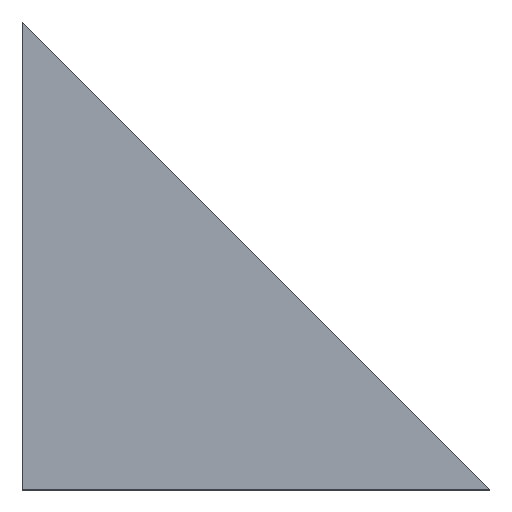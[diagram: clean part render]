
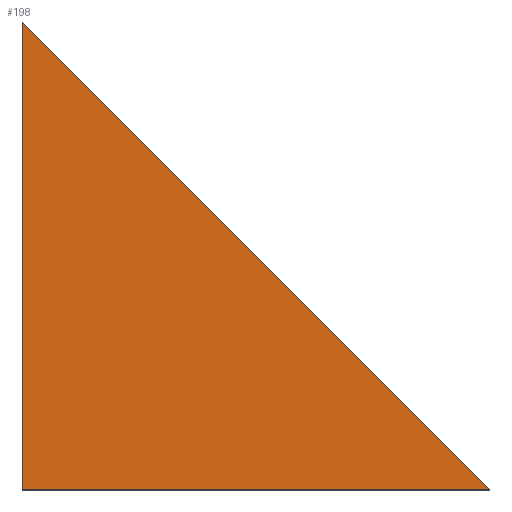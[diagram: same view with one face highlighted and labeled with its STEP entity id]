
A CAD part, top view. The second image highlights one B-rep face of the part: STEP entity #198.
In plain terms, the highlighted planar face has unit normal (0, 0, 1).
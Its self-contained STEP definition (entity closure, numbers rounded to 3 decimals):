
#3 = VECTOR ( 'NONE', #134, 1000. ) ;
#8 = ORIENTED_EDGE ( 'NONE', *, *, #189, .T. ) ;
#10 = EDGE_LOOP ( 'NONE', ( #43, #24, #8 ) ) ;
#18 = CARTESIAN_POINT ( 'NONE',  ( 0., 0., 4. ) ) ;
#21 = PLANE ( 'NONE',  #63 ) ;
#24 = ORIENTED_EDGE ( 'NONE', *, *, #141, .T. ) ;
#31 = CARTESIAN_POINT ( 'NONE',  ( 40., 0., 4. ) ) ;
#43 = ORIENTED_EDGE ( 'NONE', *, *, #56, .T. ) ;
#44 = CARTESIAN_POINT ( 'NONE',  ( 0., 40., 4. ) ) ;
#53 = DIRECTION ( 'NONE',  ( 0., -1., 0. ) ) ;
#56 = EDGE_CURVE ( 'NONE', #71, #78, #108, .T. ) ;
#63 = AXIS2_PLACEMENT_3D ( 'NONE', #18, #158, #180 ) ;
#71 = VERTEX_POINT ( 'NONE', #105 ) ;
#76 = VERTEX_POINT ( 'NONE', #92 ) ;
#78 = VERTEX_POINT ( 'NONE', #153 ) ;
#85 = FACE_OUTER_BOUND ( 'NONE', #10, .T. ) ;
#92 = CARTESIAN_POINT ( 'NONE',  ( 0., 40., 4. ) ) ;
#100 = VECTOR ( 'NONE', #53, 1000. ) ;
#105 = CARTESIAN_POINT ( 'NONE',  ( 0., 0., 4. ) ) ;
#108 = LINE ( 'NONE', #31, #3 ) ;
#114 = CARTESIAN_POINT ( 'NONE',  ( 0., 0., 4. ) ) ;
#134 = DIRECTION ( 'NONE',  ( 1., 0., 0. ) ) ;
#141 = EDGE_CURVE ( 'NONE', #78, #76, #186, .T. ) ;
#153 = CARTESIAN_POINT ( 'NONE',  ( 40., 0., 4. ) ) ;
#158 = DIRECTION ( 'NONE',  ( 0., 0., -1. ) ) ;
#166 = VECTOR ( 'NONE', #172, 1000. ) ;
#172 = DIRECTION ( 'NONE',  ( -0.707, 0.707, 0. ) ) ;
#180 = DIRECTION ( 'NONE',  ( -1., 0., 0. ) ) ;
#186 = LINE ( 'NONE', #44, #166 ) ;
#189 = EDGE_CURVE ( 'NONE', #76, #71, #193, .T. ) ;
#193 = LINE ( 'NONE', #114, #100 ) ;
#198 = ADVANCED_FACE ( 'NONE', ( #85 ), #21, .F. ) ;
